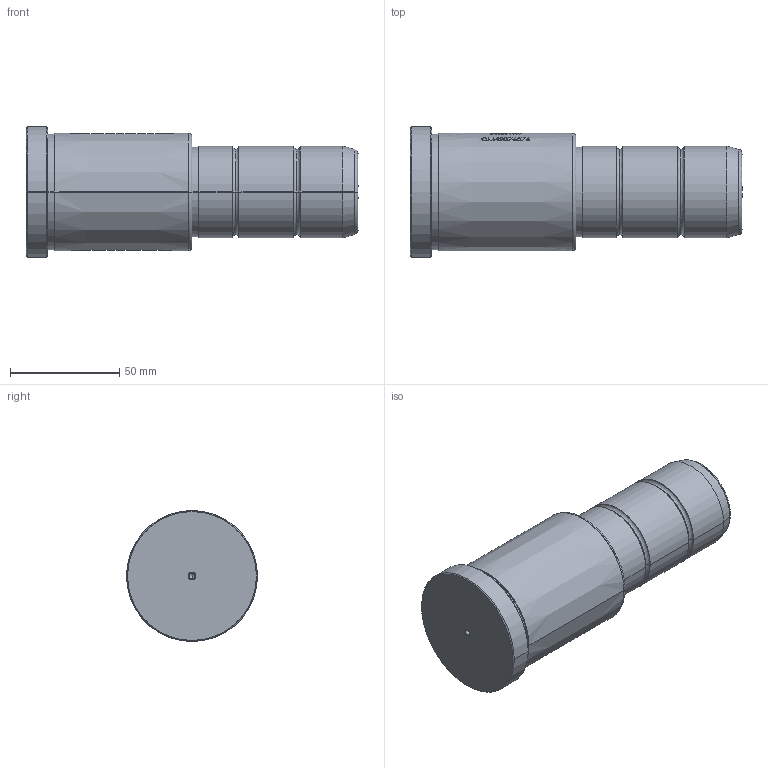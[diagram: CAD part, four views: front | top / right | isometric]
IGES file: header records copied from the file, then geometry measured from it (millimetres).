
Start section: SolidWorks IGES file using analytic representation for surfaces
Global section: file name: D:\TRIVECTOR\2026\08_Agosto\CM - COLUNA PRINCIPAL E31 (CATÁLOGO)\CM42076076.IGS; native system: SolidWorks 2024; preprocessor: SolidWorks 2024; author: Usuario; date: 260831.181705; units: millimetre
Bounding box: 152 x 60 x 60 mm (x, y, z)
Surface area: 29072.8 mm2 (no closed solid volume)
Topology: 0 solids, 0 shells, 464 faces, 5538 edges, 5534 vertices
Faces by surface type: bspline 382, revolution 82
